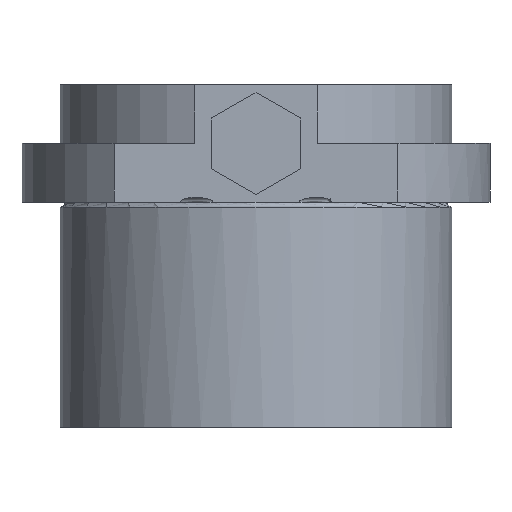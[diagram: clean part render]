
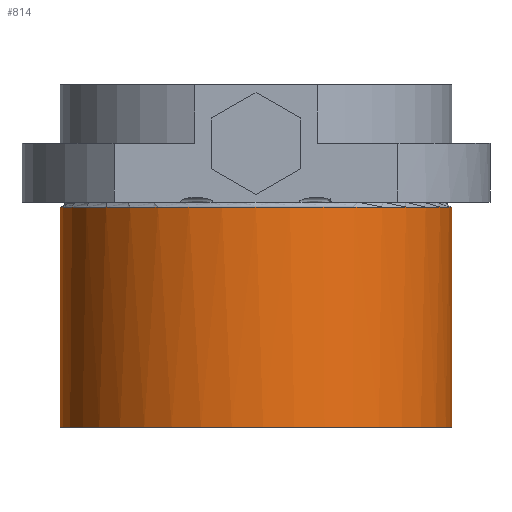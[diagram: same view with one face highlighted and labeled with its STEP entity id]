
A CAD part, front view. The second image highlights one B-rep face of the part: STEP entity #814.
In plain terms, the highlighted cylindrical face has radius 20 mm (diameter 40 mm), a partial arc.
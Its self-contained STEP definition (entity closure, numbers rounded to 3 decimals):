
#446=CARTESIAN_POINT('Control Point',(-20.,0.,-23.)) ;
#447=CARTESIAN_POINT('Control Point',(-20.,-1.972,-23.)) ;
#448=CARTESIAN_POINT('Control Point',(-19.757,-3.944,-23.)) ;
#449=CARTESIAN_POINT('Control Point',(-19.271,-5.876,-23.)) ;
#450=CARTESIAN_POINT('Control Point',(-17.833,-9.58,-23.)) ;
#451=CARTESIAN_POINT('Control Point',(-15.539,-12.824,-23.)) ;
#452=CARTESIAN_POINT('Control Point',(-14.196,-14.296,-23.)) ;
#453=CARTESIAN_POINT('Control Point',(-11.176,-16.878,-23.)) ;
#454=CARTESIAN_POINT('Control Point',(-7.62,-18.65,-23.)) ;
#455=CARTESIAN_POINT('Control Point',(-5.741,-19.311,-23.)) ;
#456=CARTESIAN_POINT('Control Point',(-1.859,-20.157,-23.)) ;
#457=CARTESIAN_POINT('Control Point',(2.113,-20.036,-23.)) ;
#458=CARTESIAN_POINT('Control Point',(4.081,-19.729,-23.)) ;
#459=CARTESIAN_POINT('Control Point',(7.902,-18.637,-23.)) ;
#460=CARTESIAN_POINT('Control Point',(11.343,-16.65,-23.)) ;
#461=CARTESIAN_POINT('Control Point',(12.932,-15.449,-23.)) ;
#462=CARTESIAN_POINT('Control Point',(15.781,-12.679,-23.)) ;
#463=CARTESIAN_POINT('Control Point',(17.872,-9.3,-23.)) ;
#464=CARTESIAN_POINT('Control Point',(18.703,-7.49,-23.)) ;
#465=CARTESIAN_POINT('Control Point',(19.526,-4.889,-23.)) ;
#466=CARTESIAN_POINT('Control Point',(19.899,-2.205,-23.)) ;
#467=CARTESIAN_POINT('Control Point',(19.966,-1.471,-23.)) ;
#468=CARTESIAN_POINT('Control Point',(20.,-0.736,-23.)) ;
#469=CARTESIAN_POINT('Control Point',(20.,0.,-23.)) ;
#470=CARTESIAN_POINT('Vertex',(-20.,0.,-23.)) ;
#472=CARTESIAN_POINT('Vertex',(20.,0.,-23.)) ;
#784=CARTESIAN_POINT('Axis2P3D Location',(0.,0.,12.)) ;
#789=CARTESIAN_POINT('Line Origine',(20.,0.,12.)) ;
#793=CARTESIAN_POINT('Vertex',(20.,0.,-0.5)) ;
#796=CARTESIAN_POINT('Axis2P3D Location',(0.,0.,-0.5)) ;
#800=CARTESIAN_POINT('Vertex',(-20.,0.,-0.5)) ;
#803=CARTESIAN_POINT('Line Origine',(-20.,0.,12.)) ;
#785=DIRECTION('Axis2P3D Direction',(0.,0.,-1.)) ;
#786=DIRECTION('Axis2P3D XDirection',(1.,0.,0.)) ;
#790=DIRECTION('Vector Direction',(0.,0.,-1.)) ;
#797=DIRECTION('Axis2P3D Direction',(0.,0.,-1.)) ;
#804=DIRECTION('Vector Direction',(0.,0.,-1.)) ;
#787=AXIS2_PLACEMENT_3D('Cylinder Axis2P3D',#784,#785,#786) ;
#798=AXIS2_PLACEMENT_3D('Circle Axis2P3D',#796,#797,$) ;
#809=ORIENTED_EDGE('',*,*,#795,.T.) ;
#810=ORIENTED_EDGE('',*,*,#802,.F.) ;
#811=ORIENTED_EDGE('',*,*,#807,.T.) ;
#812=ORIENTED_EDGE('',*,*,#474,.T.) ;
#791=VECTOR('Line Direction',#790,1.) ;
#805=VECTOR('Line Direction',#804,1.) ;
#814=ADVANCED_FACE('740-25',(#813),#788,.T.) ;
#445=B_SPLINE_CURVE_WITH_KNOTS('',5,(#446,#447,#448,#449,#450,#451,#452,#453,#454,#455,#456,#457,#458,#459,#460,#461,#462,#463,#464,#465,#466,#467,#468,#469),.UNSPECIFIED.,.F.,.U.,(6,3,3,3,3,3,3,6),(0.,13.943,27.885,41.828,55.77,69.713,83.656,88.857),.UNSPECIFIED.) ;
#799=CIRCLE('generated circle',#798,20.) ;
#788=CYLINDRICAL_SURFACE('generated cylinder',#787,20.) ;
#474=EDGE_CURVE('',#471,#473,#445,.T.) ;
#795=EDGE_CURVE('',#473,#794,#792,.F.) ;
#802=EDGE_CURVE('',#801,#794,#799,.F.) ;
#807=EDGE_CURVE('',#801,#471,#806,.T.) ;
#808=EDGE_LOOP('',(#809,#810,#811,#812)) ;
#813=FACE_OUTER_BOUND('',#808,.T.) ;
#792=LINE('Line',#789,#791) ;
#806=LINE('Line',#803,#805) ;
#471=VERTEX_POINT('',#470) ;
#473=VERTEX_POINT('',#472) ;
#794=VERTEX_POINT('',#793) ;
#801=VERTEX_POINT('',#800) ;
